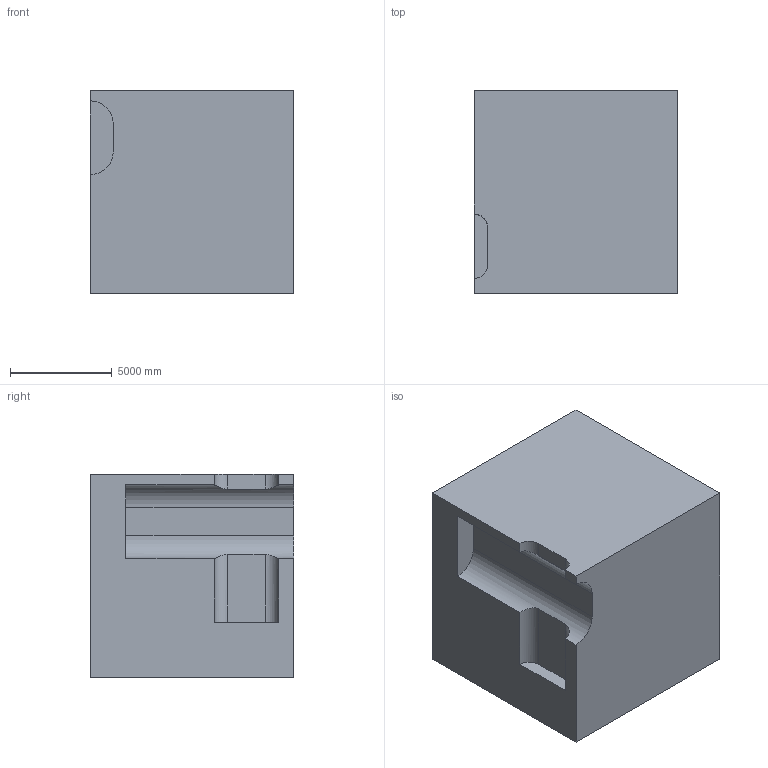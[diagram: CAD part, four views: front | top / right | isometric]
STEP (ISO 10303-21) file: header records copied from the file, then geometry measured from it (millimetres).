
FILE_DESCRIPTION (( 'STEP AP203' ), '1' );
FILE_NAME ('1108.STEP', '2022-08-18T12:47:34', ( 'user' ), ( '' ), 'SwSTEP 2.0', 'SolidWorks 2021', '' );
FILE_SCHEMA (( 'CONFIG_CONTROL_DESIGN' ));
Length unit declared in the file: centimetre
Products named in the file (1): 1108
Bounding box: 10000 x 10000 x 10000 mm (x, y, z)
Volume: 963788520867.7 mm3; surface area: 610479664.2 mm2
Topology: 1 solids, 1 shells, 18 faces, 48 edges, 32 vertices
Faces by surface type: plane 12, cylinder 6
Entity records: 849 total; most frequent: CARTESIAN_POINT 319, ORIENTED_EDGE 96, DIRECTION 90, EDGE_CURVE 48, VECTOR 36, LINE 36, VERTEX_POINT 32, AXIS2_PLACEMENT_3D 27
